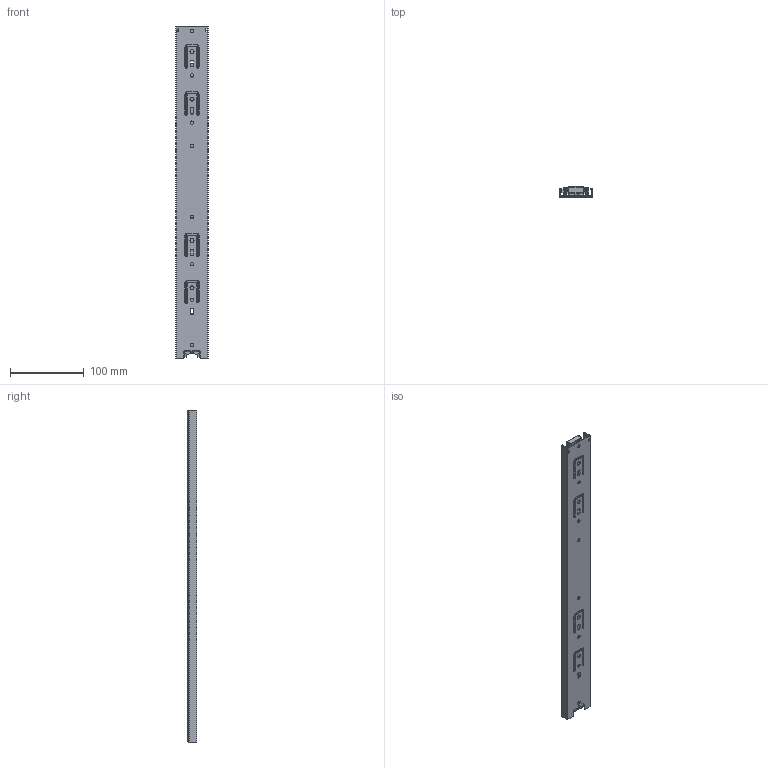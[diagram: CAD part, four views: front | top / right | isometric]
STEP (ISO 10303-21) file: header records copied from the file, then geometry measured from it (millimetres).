
FILE_DESCRIPTION(/* description */ (''),/* implementation_level */ '2;1');
FILE_NAME(/* name */ 'C:\Users\dmitruk\Documents\WORK\\X2\041D0410041F042004100412041B042F042E042904180415\X0\\Шариковые\h45 L-450 AKS.stp',/* time_stamp */ '2022-04-19T17:32:22+03:00',/* author */ ('dmitruk'),/* organization */ ('AKS'),/* preprocessor_version */ 'ST-DEVELOPER v16.5',/* originating_system */ 'Autodesk Inventor 2017',/* authorisation */ '');
FILE_SCHEMA (('AUTOMOTIVE_DESIGN { 1 0 10303 214 3 1 1 }'));
Length unit declared in the file: millimetre
Products named in the file (5): h45 L-450 AKS; h45 L-450 AKS_11; h45 L-450 AKS_12; h45 L-450_13; h45 L-450 AKS_2
Assembly tree (4 placements, depth 2):
  h45 L-450 AKS
    h45 L-450 AKS_11
    h45 L-450 AKS_12
    h45 L-450_13
    h45 L-450 AKS_2
Bounding box: 44 x 13 x 450 mm (x, y, z)
Volume: 71912.3 mm3; surface area: 142292.4 mm2
Topology: 4 solids, 4 shells, 781 faces, 2293 edges, 1492 vertices
Faces by surface type: plane 444, cylinder 281, sphere 56
Full cylindrical faces by diameter (mm): 4.5 x11, 5.5 x4
Entity records: 26574 total; most frequent: CARTESIAN_POINT 4854, ORIENTED_EDGE 4550, DIRECTION 4525, EDGE_CURVE 2275, LINE 1541, VECTOR 1541, AXIS2_PLACEMENT_3D 1492, VERTEX_POINT 1489
